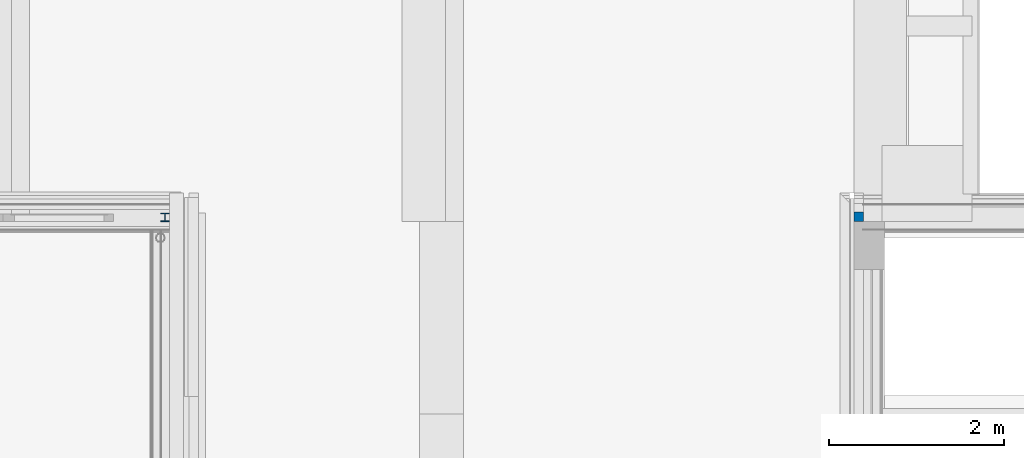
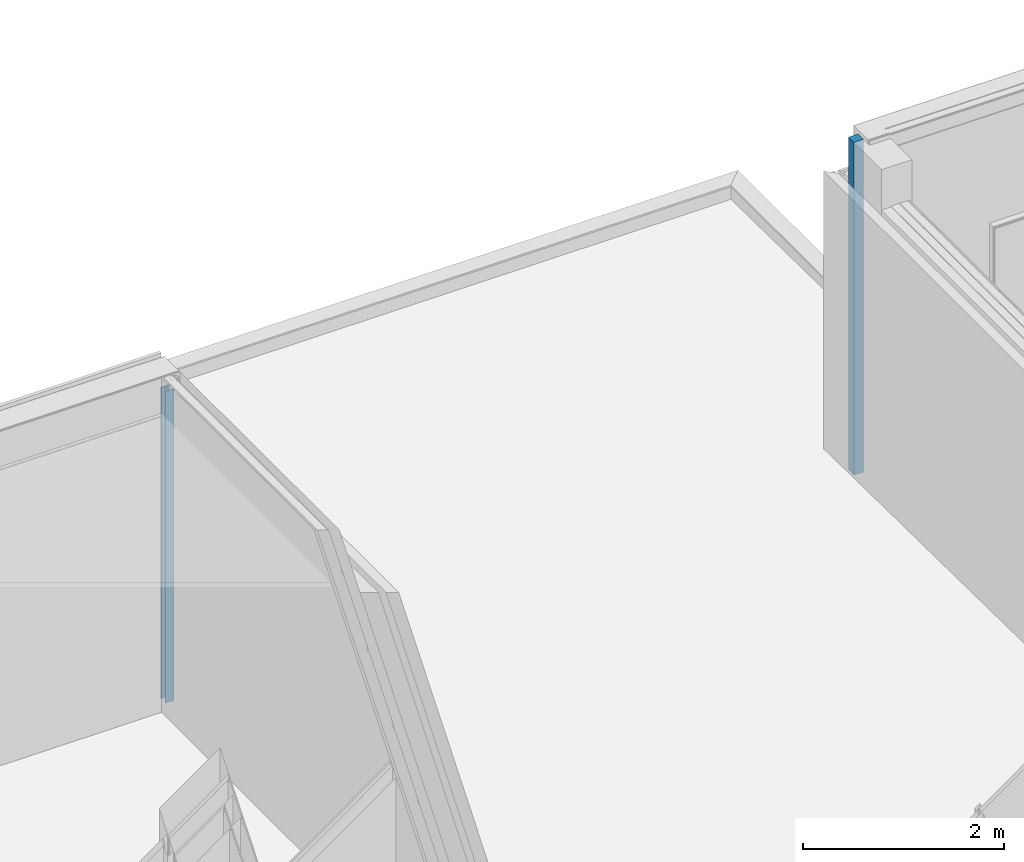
# One storey, part 13 of 94: 2 columns.
"""IFC2X3 building model written with IfcOpenShell, lengths in millimetres."""

import ifcopenshell
import ifcopenshell.guid

model = None  # the IFC model being written
_history = None  # IfcOwnerHistory: only IFC2X3 demands one
_inside = {}  # id of a spatial element -> (the spatial element, [elements in it])
_under = {}  # id of a project, library or spatial element -> (it, [spatial elements below it])
_declared = {}  # id of a project -> (the project, [libraries it declares])
_typed = {}  # id of a type object -> (the type object, [elements of that type])
_made_of = {}  # id of a material, layer set ... -> (it, [elements and type objects made of it])


def new_model(schema):
    """Start an empty IFC model of exactly this schema.

    Asked for "IFC4X3", IfcOpenShell would pick the latest addendum, in which some entities
    have other attributes; the version numbers below select the first issue.
    IFC2X3 requires an IfcOwnerHistory on every rooted entity: one is made here for all.
    """
    global model, _history
    if schema == "IFC4X3":
        model = ifcopenshell.file(schema_version=(4, 3, 0, 0))
    else:
        model = ifcopenshell.file(schema=schema)
    _inside.clear()
    _under.clear()
    _declared.clear()
    _typed.clear()
    _made_of.clear()
    _history = None
    if model.schema == "IFC2X3":
        org = make("IfcOrganization", Name="unknown")
        user = make(
            "IfcPersonAndOrganization",
            ThePerson=make("IfcPerson", FamilyName="unknown"),
            TheOrganization=org,
        )
        app = make(
            "IfcApplication",
            ApplicationDeveloper=org,
            Version="unknown",
            ApplicationFullName="unknown",
            ApplicationIdentifier="unknown",
        )
        _history = make(
            "IfcOwnerHistory",
            OwningUser=user,
            OwningApplication=app,
            ChangeAction="ADDED",
            CreationDate=0,
        )
    return model


def make(cls, **values):
    """One entity of the class cls with the attributes given. An attribute that is None is left unset."""
    return model.create_entity(
        cls, **{name: value for name, value in values.items() if value is not None}
    )


def entity(cls, *values):
    """Any entity or typed value of the class cls, its attributes in the order of the schema. None: left unset."""
    e = model.create_entity(cls)
    for i, value in enumerate(values):
        if value is not None:
            e[i] = value
    return e


def rooted(cls, **values):
    """An entity with a GlobalId (a new one), such as an element, a storey or a relation."""
    return make(cls, GlobalId=ifcopenshell.guid.new(), OwnerHistory=_history, **values)


def si_unit(unit_type, name, prefix=None):
    """IfcSIUnit, for example si_unit("LENGTHUNIT", "METRE", prefix="MILLI")."""
    return make("IfcSIUnit", UnitType=unit_type, Prefix=prefix, Name=name)


def converted_unit(unit_type, name, factor, base, dimensions=None, offset=None):
    """IfcConversionBasedUnit, such as the inch: factor (a typed value) times the base unit."""
    return make(
        "IfcConversionBasedUnit"
        if offset is None
        else "IfcConversionBasedUnitWithOffset",
        ConversionOffset=offset,
        Dimensions=None
        if dimensions is None
        else entity("IfcDimensionalExponents", *dimensions),
        UnitType=unit_type,
        Name=name,
        ConversionFactor=make(
            "IfcMeasureWithUnit", ValueComponent=factor, UnitComponent=base
        ),
    )


def derived_unit(unit_type, elements):
    """IfcDerivedUnit: a product of units, each with its exponent."""
    return make(
        "IfcDerivedUnit",
        Elements=[
            make("IfcDerivedUnitElement", Unit=unit, Exponent=power)
            for unit, power in elements
        ],
        UnitType=unit_type,
    )


def money_unit(currency):
    """IfcMonetaryUnit."""
    return make("IfcMonetaryUnit", Currency=currency)


def assignment(units):
    """IfcUnitAssignment: the units of a project."""
    return None if units is None else make("IfcUnitAssignment", Units=units)


def point(xyz):
    """IfcCartesianPoint."""
    return None if xyz is None else make("IfcCartesianPoint", Coordinates=xyz)


def direction(xyz):
    """IfcDirection."""
    return None if xyz is None else make("IfcDirection", DirectionRatios=xyz)


def frame(location, z_axis=None, x_axis=None):
    """IfcAxis2Placement3D, a coordinate frame: its origin and axes. An axis left out is left unset."""
    return make(
        "IfcAxis2Placement3D",
        Location=point(location),
        Axis=direction(z_axis),
        RefDirection=direction(x_axis),
    )


def origin_with_axes():
    """The frame at (0, 0, 0) with the z axis (0, 0, 1) and the x axis (1, 0, 0) written out."""
    return frame((0.0, 0.0, 0.0), z_axis=(0.0, 0.0, 1.0), x_axis=(1.0, 0.0, 0.0))


def place(relative_to, where):
    """IfcLocalPlacement: puts the frame where relative to a parent placement (None: the world)."""
    return make(
        "IfcLocalPlacement", PlacementRelTo=relative_to, RelativePlacement=where
    )


def context(
    kind, dimensions, precision=None, world=None, true_north=None, identifier=None
):
    """IfcGeometricRepresentationContext, for example the 3D "Model" context."""
    return make(
        "IfcGeometricRepresentationContext",
        ContextIdentifier=identifier,
        ContextType=kind,
        CoordinateSpaceDimension=dimensions,
        Precision=precision,
        WorldCoordinateSystem=world,
        TrueNorth=true_north,
    )


def subcontext(parent, identifier, kind, view, scale=None):
    """IfcGeometricRepresentationSubContext, for example "Body" below "Model"."""
    return make(
        "IfcGeometricRepresentationSubContext",
        ContextIdentifier=identifier,
        ContextType=kind,
        ParentContext=parent,
        TargetScale=scale,
        TargetView=view,
    )


def project(units=None, contexts=None):
    """IfcProject with its units and contexts."""
    return rooted(
        "IfcProject",
        Name="project",
        RepresentationContexts=contexts,
        UnitsInContext=assignment(units),
    )


def spatial(cls, under=None, at=None, **own):
    """A site, building, storey or space (cls), placed at a placement, below another one or the project."""
    s = rooted(cls, ObjectPlacement=at, **own)
    if under is not None:
        _under.setdefault(under.id(), (under, []))[1].append(s)
    return s


def faces_of(points, faces, orient=None, outer=None):
    """IfcFace entities. A face is a list of loops; a loop is a list of indices into points, from 0.

    orient and outer hold one flag for each loop. By default every Orientation is true, the
    first loop of a face is its IfcFaceOuterBound and the others are IfcFaceBound.
    """
    made = []
    for i, loops in enumerate(faces):
        bounds = []
        for j, loop in enumerate(loops):
            is_outer = j == 0 if outer is None else outer[i][j]
            bounds.append(
                make(
                    "IfcFaceOuterBound" if is_outer else "IfcFaceBound",
                    Bound=make("IfcPolyLoop", Polygon=[points[k] for k in loop]),
                    Orientation=True if orient is None else orient[i][j],
                )
            )
        made.append(make("IfcFace", Bounds=bounds))
    return made


def faceted_brep(points, faces, orient=None, outer=None, voids=None):
    """IfcFacetedBrep: a solid bounded by flat faces; with voids (closed shells), ...WithVoids."""
    shared = [point(p) for p in points]
    hull = make("IfcClosedShell", CfsFaces=faces_of(shared, faces, orient, outer))
    if voids is None:
        return make("IfcFacetedBrep", Outer=hull)
    return make(
        "IfcFacetedBrepWithVoids",
        Outer=hull,
        Voids=[
            make(cls, CfsFaces=faces_of(shared, fs, o, b)) for cls, fs, o, b in voids
        ],
    )


def shape(context_of_items, identifier, shape_type, items):
    """IfcShapeRepresentation: the items that make up one representation, for example the "Body"."""
    return make(
        "IfcShapeRepresentation",
        ContextOfItems=context_of_items,
        RepresentationIdentifier=identifier,
        RepresentationType=shape_type,
        Items=items,
    )


def material(Name=None, Category=None):
    """IfcMaterial."""
    return make("IfcMaterial", Name=Name, Category=Category)


def made_of(thing, what):
    """Note that an element or type object is made of a material, layer set ...; save() writes the relation."""
    if what is not None:
        _made_of.setdefault(what.id(), (what, []))[1].append(thing)
    return thing


def type_object(cls, material=None, **own):
    """A type object (cls), such as IfcWallType, which elements share."""
    return made_of(rooted(cls, **own), material)


def element(
    cls,
    number,
    at=None,
    inside=None,
    cuts=None,
    type_object=None,
    material=None,
    context=None,
    identifier="Body",
    shape_type=None,
    held_by="IfcProductDefinitionShape",
    body=None,
    shapes=None,
    **own,
):
    """One element of the class cls, such as IfcWall. Its Tag is "e" and its number.

    at: its placement. inside: the storey or other place that contains it. cuts: it is an
    opening in that element (IfcRelVoidsElement). A single representation is given by context,
    identifier, shape_type and body (its items); several are given by shapes. held_by: the class
    of the entity that holds the representations. save() writes the other relations.
    """
    e = rooted(cls, Tag="e%d" % number, ObjectPlacement=at, **own)
    if body is not None:
        shapes = [shape(context, identifier, shape_type, body)]
    if shapes is not None:
        e.Representation = make(held_by, Representations=shapes)
    if inside is not None:
        _inside.setdefault(inside.id(), (inside, []))[1].append(e)
    if cuts is not None:
        rooted(
            "IfcRelVoidsElement", RelatingBuildingElement=cuts, RelatedOpeningElement=e
        )
    if type_object is not None:
        _typed.setdefault(type_object.id(), (type_object, []))[1].append(e)
    return made_of(e, material)


def aggregate(whole, parts):
    """IfcRelAggregates: a whole, such as a stair, and the parts it consists of."""
    return rooted("IfcRelAggregates", RelatingObject=whole, RelatedObjects=parts)


def save(model, path):
    """Write the relations noted so far, then the file.

    IfcRelAggregates (storeys below a building ...), IfcRelContainedInSpatialStructure (elements
    in a storey), IfcRelDefinesByType, IfcRelAssociatesMaterial and IfcRelDeclares: one each for
    every whole, place, type object, material and project.
    """
    for whole, parts in _under.values():
        aggregate(whole, parts)
    for where, things in _inside.values():
        rooted(
            "IfcRelContainedInSpatialStructure",
            RelatedElements=things,
            RelatingStructure=where,
        )
    for kind, things in _typed.values():
        rooted("IfcRelDefinesByType", RelatedObjects=things, RelatingType=kind)
    for what, things in _made_of.values():
        rooted("IfcRelAssociatesMaterial", RelatedObjects=things, RelatingMaterial=what)
    for by, libraries in _declared.values():
        rooted("IfcRelDeclares", RelatingContext=by, RelatedDefinitions=libraries)
    model.write(path)


model = new_model("IFC2X3")

# Units and contexts
model_context = context("Model", 3, precision=0.01, world=origin_with_axes(), true_north=direction((0.0, 1.0)))
body_context = subcontext(model_context, "Body", "Model", "MODEL_VIEW")
ifc_project = project(units=[si_unit("LENGTHUNIT", "METRE", prefix="MILLI"), si_unit("AREAUNIT", "SQUARE_METRE"), si_unit("VOLUMEUNIT", "CUBIC_METRE"), converted_unit("PLANEANGLEUNIT", "DEGREE", entity("IfcPlaneAngleMeasure", 0.0174532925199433), si_unit("PLANEANGLEUNIT", "RADIAN"), dimensions=[0, 0, 0, 0, 0, 0, 0]), money_unit("EUR"), converted_unit("TIMEUNIT", "Year", entity("IfcTimeMeasure", 31557600.0), si_unit("TIMEUNIT", "SECOND"), dimensions=[0, 0, 1, 0, 0, 0, 0]), si_unit("MASSUNIT", "GRAM", prefix="KILO"), si_unit("THERMODYNAMICTEMPERATUREUNIT", "DEGREE_CELSIUS"), si_unit("LUMINOUSINTENSITYUNIT", "LUMEN"), si_unit("ENERGYUNIT", "JOULE", prefix="MEGA"), derived_unit("THERMALCONDUCTANCEUNIT", [(si_unit("POWERUNIT", "WATT"), 1), (si_unit("LENGTHUNIT", "METRE"), -1), (si_unit("THERMODYNAMICTEMPERATUREUNIT", "KELVIN"), -1)]), derived_unit("SPECIFICHEATCAPACITYUNIT", [(si_unit("ENERGYUNIT", "JOULE"), 1), (si_unit("MASSUNIT", "GRAM", prefix="KILO"), -1), (si_unit("THERMODYNAMICTEMPERATUREUNIT", "KELVIN"), -1)]), derived_unit("MASSDENSITYUNIT", [(si_unit("MASSUNIT", "GRAM", prefix="KILO"), 1), (si_unit("VOLUMEUNIT", "CUBIC_METRE"), -1)])], contexts=[model_context])

# Site, building, storey
site_placement = place(None, origin_with_axes())
site = spatial("IfcSite", under=ifc_project, at=site_placement, Name="<site naam>", CompositionType="ELEMENT")
building_placement = place(site_placement, origin_with_axes())
building = spatial("IfcBuilding", under=site, at=building_placement, Name="<Naam gebouw>", CompositionType="ELEMENT")
storey_placement = place(building_placement, frame((0.0, 0.0, 4250.0), z_axis=(0.0, 0.0, 1.0), x_axis=(1.0, 0.0, 0.0)))
storey = spatial("IfcBuildingStorey", under=building, at=storey_placement, Name="01 1e verdieping", CompositionType="ELEMENT", Elevation=4250.0)

# Columns
ifc_material_1 = material(Name="staal C")
column_type_1 = type_object("IfcColumnType", Name="Profiel H algemeen 100 x 96", PredefinedType="COLUMN")
column_1_placement = place(storey_placement, frame((3950.044468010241, 20048.0000004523, 0.0), z_axis=(0.0, 0.0, 1.0), x_axis=(1.0, 0.0, 0.0)))
element("IfcColumn", 1, at=column_1_placement, inside=storey, type_object=column_type_1, material=ifc_material_1, Name="28_Kolom_Profiel", ObjectType="COLUMN", context=body_context, shape_type="Brep", body=[
    faceted_brep([(-50.00000009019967, -48.00000045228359, 3789.999753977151), (-50.00000009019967, -48.00000045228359, 0.0), (50.00000009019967, -48.00000045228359, 0.0), (50.00000009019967, -48.00000045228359, 3789.999753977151), (-50.00000014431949, -39.99999797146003, 3789.999753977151), (-50.00000014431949, -39.99999797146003, 0.0), (-2.499999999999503, -39.99999797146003, 0.0), (-2.499999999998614, 39.99999797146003, 0.0), (-50.00000014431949, 39.99999797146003, 0.0), (-50.00000009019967, 48.00000045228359, 0.0), (50.00000009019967, 48.00000045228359, 0.0), (50.00000014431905, 39.99999797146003, 0.0), (2.500000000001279, 39.99999797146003, 0.0), (2.500000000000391, -39.99999797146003, 0.0), (50.00000014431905, -39.99999797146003, 0.0), (50.00000014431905, -39.99999797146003, 3789.999753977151), (2.500000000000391, -39.99999797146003, 3789.999753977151), (2.500000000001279, 39.99999797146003, 3789.999753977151), (50.00000014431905, 39.99999797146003, 3789.999753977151), (50.00000009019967, 48.00000045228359, 3789.999753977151), (-50.00000009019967, 48.00000045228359, 3789.999753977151), (-50.00000014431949, 39.99999797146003, 3789.999753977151), (-2.499999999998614, 39.99999797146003, 3789.999753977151), (-2.499999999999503, -39.99999797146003, 3789.999753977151)], [[[0, 1, 2, 3]], [[4, 5, 1, 0]], [[2, 1, 5, 6, 7, 8, 9, 10, 11, 12, 13, 14]], [[3, 2, 14, 15]], [[4, 0, 3, 15, 16, 17, 18, 19, 20, 21, 22, 23]], [[23, 6, 5, 4]], [[22, 7, 6, 23]], [[21, 8, 7, 22]], [[20, 9, 8, 21]], [[19, 10, 9, 20]], [[18, 11, 10, 19]], [[17, 12, 11, 18]], [[16, 13, 12, 17]], [[15, 14, 13, 16]]]),
])
ifc_material_2 = material(Name="beton_gewapend C")
column_type_2 = type_object("IfcColumnType", Name="beton_gewapend C 110 x 108", PredefinedType="COLUMN")
column_2_placement = place(storey_placement, frame((11879.99995236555, 20053.83725919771, 0.0), z_axis=(0.0, 0.0, 1.0), x_axis=(-1.0, 0.0, 0.0)))
element("IfcColumn", 2, at=column_2_placement, inside=storey, type_object=column_type_2, material=ifc_material_2, Name="28_Kolom_beton_gewapend", ObjectType="COLUMN", context=body_context, shape_type="Brep", body=[
    faceted_brep([(-55.00000034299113, 53.83723689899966, 0.0), (-55.00000034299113, 53.83723689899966, 4050.000000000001), (55.00000034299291, 53.83723689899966, 4050.000000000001), (55.00000034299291, 53.83723689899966, 0.0), (-55.00000034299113, -53.83723689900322, 0.0), (-55.00000034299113, -53.83723689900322, 4050.000000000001), (55.00000034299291, -53.83723689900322, 4050.000000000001), (55.00000034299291, -53.83723689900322, 0.0)], [[[0, 1, 2, 3]], [[4, 5, 1, 0]], [[1, 5, 6, 2]], [[3, 2, 6, 7]], [[7, 4, 0, 3]], [[7, 6, 5, 4]]]),
])

save(model, "model.ifc")
